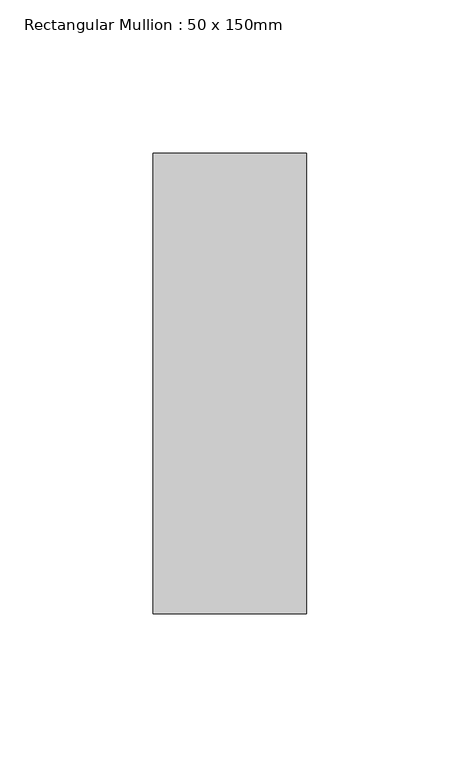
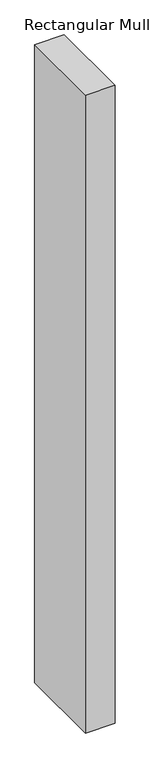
"""IFC4 building model written with IfcOpenShell, lengths in millimetres: member geometry, Rectangular Mullion : 50 x 150mm."""

from ifc_helpers import new_model, si_unit, frame, origin, place, context, project, spatial, polyline, outline, extrude, source, transform, mapped, element, save


def rectangular_mullion_50_x_150mm_169d2d5c(model_context):
    return source(origin(), model_context, "Body", "SweptSolid", [
        extrude(outline(polyline([(25.0, 75.0), (25.0, -75.0), (-25.0, -75.0), (-25.0, 75.0), (25.0, 75.0)])), frame((0.0, 0.0, -1146.975), z_axis=(0.0, 0.0, 1.0), x_axis=(1.0, 0.0, 0.0)), (0.0, 0.0, 1.0), 1146.975),
    ])


if __name__ == "__main__":
    model = new_model("IFC4")
    model_context = context("Model", 3, world=origin())
    ifc_project = project(units=[si_unit("LENGTHUNIT", "METRE", prefix="MILLI")], contexts=[model_context])
    site = spatial("IfcSite", under=ifc_project)
    building = spatial("IfcBuilding", under=site)
    placement = place(None, origin())
    rectangular_mullion_50_x_150mm_shape = rectangular_mullion_50_x_150mm_169d2d5c(model_context)
    element("IfcMember", 1, ObjectType="Rectangular Mullion : 50 x 150mm", at=placement, inside=building, context=model_context, shape_type="MappedRepresentation", body=[
        mapped(rectangular_mullion_50_x_150mm_shape, transform((0.0, 0.0, 0.0), x_axis=(1.0, 0.0, 0.0), y_axis=(0.0, 1.0, 0.0), z_axis=(0.0, 0.0, 1.0))),
    ])
    save(model, "model.ifc")
